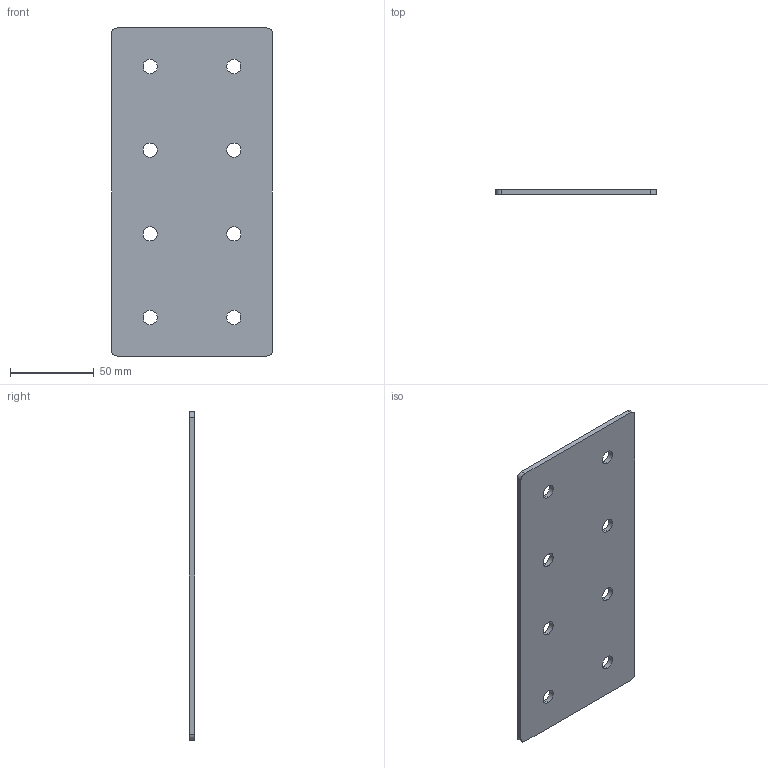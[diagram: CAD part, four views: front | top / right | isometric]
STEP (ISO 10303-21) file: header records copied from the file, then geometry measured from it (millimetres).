
FILE_DESCRIPTION (( 'STEP AP203' ), '1' );
FILE_NAME ('Ï-8-50.STEP', '2017-03-22T07:23:12', ( 'RosInstal-MKM' ), ( '' ), 'SwSTEP 2.0', 'SolidWorks 2014', '' );
FILE_SCHEMA (( 'CONFIG_CONTROL_DESIGN' ));
Length unit declared in the file: millimetre
Products named in the file (1): ﾏ-8-50
Bounding box: 96 x 3 x 196 mm (x, y, z)
Volume: 55056.9 mm3; surface area: 39080.2 mm2
Topology: 1 solids, 1 shells, 26 faces, 72 edges, 48 vertices
Faces by surface type: cylinder 20, plane 6
Entity records: 965 total; most frequent: DIRECTION 166, CARTESIAN_POINT 147, ORIENTED_EDGE 144, EDGE_CURVE 72, AXIS2_PLACEMENT_3D 67, VERTEX_POINT 48, EDGE_LOOP 42, CIRCLE 40
